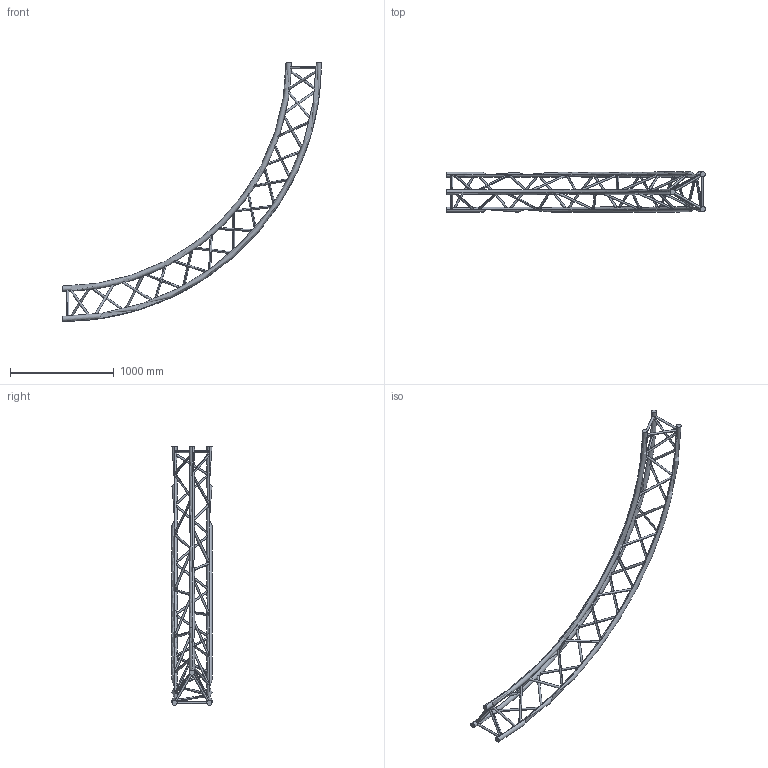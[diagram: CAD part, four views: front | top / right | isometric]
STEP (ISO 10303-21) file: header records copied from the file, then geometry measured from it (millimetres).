
FILE_DESCRIPTION (( 'STEP AP203' ), '1' );
FILE_NAME ('SXC39500PI.STEP', '2009-10-21T11:40:54', ( 'CEDIA' ), ( 'CEDIA INDUSTRIE' ), 'SwSTEP 2.0', 'SolidWorks 2009', '' );
FILE_SCHEMA (( 'CONFIG_CONTROL_DESIGN' ));
Length unit declared in the file: millimetre
Products named in the file (1): SXC39500PI
Bounding box: 2500 x 387 x 2500 mm (x, y, z)
Volume: 27042961.7 mm3; surface area: 2747746.4 mm2
Topology: 1 solids, 1 shells, 102 faces, 288 edges, 192 vertices
Faces by surface type: cylinder 90, torus 6, plane 6
Entity records: 11978 total; most frequent: CARTESIAN_POINT 9422, ORIENTED_EDGE 576, DIRECTION 332, EDGE_CURVE 288, EDGE_LOOP 192, VERTEX_POINT 192, B_SPLINE_CURVE_WITH_KNOTS 180, AXIS2_PLACEMENT_3D 121
